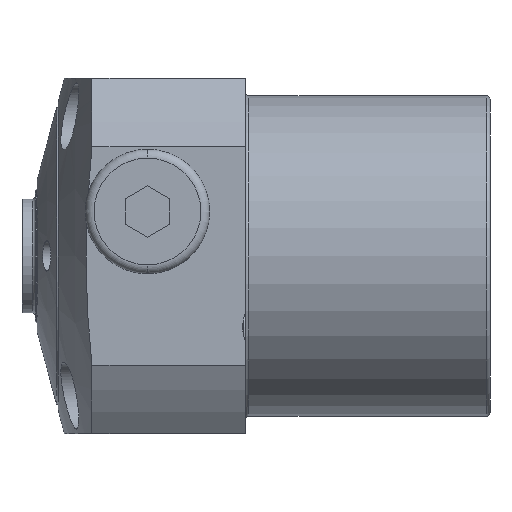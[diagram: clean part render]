
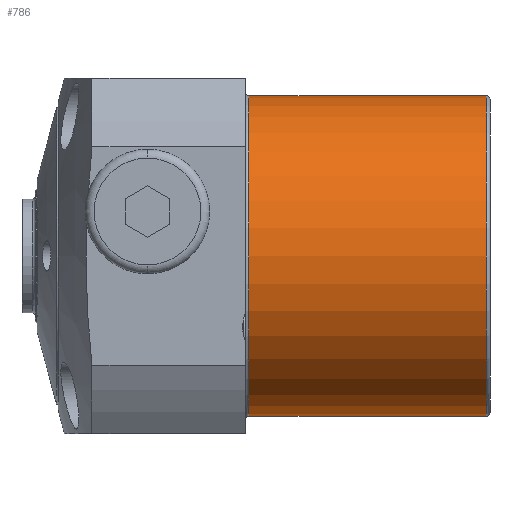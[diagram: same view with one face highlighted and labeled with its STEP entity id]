
A CAD part, left-side view. The second image highlights one B-rep face of the part: STEP entity #786.
In plain terms, the highlighted cylindrical face has radius 18 mm (diameter 36 mm), a partial arc.
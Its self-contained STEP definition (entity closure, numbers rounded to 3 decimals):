
#374=CYLINDRICAL_SURFACE('',#3055,18.);
#484=LINE('',#4728,#623);
#485=LINE('',#4732,#624);
#623=VECTOR('',#3643,1.);
#624=VECTOR('',#3646,1.);
#786=ADVANCED_FACE('',(#973),#374,.T.);
#973=FACE_OUTER_BOUND('',#1150,.T.);
#1150=EDGE_LOOP('',(#1736,#1737,#1738,#1739));
#1736=ORIENTED_EDGE('',*,*,#2410,.T.);
#1737=ORIENTED_EDGE('',*,*,#2405,.T.);
#1738=ORIENTED_EDGE('',*,*,#2412,.F.);
#1739=ORIENTED_EDGE('',*,*,#2517,.F.);
#2116=VERTEX_POINT('',#4719);
#2117=VERTEX_POINT('',#4720);
#2120=VERTEX_POINT('',#4729);
#2121=VERTEX_POINT('',#4731);
#2405=EDGE_CURVE('',#2116,#2117,#2677,.T.);
#2410=EDGE_CURVE('',#2120,#2116,#484,.T.);
#2412=EDGE_CURVE('',#2121,#2117,#485,.T.);
#2517=EDGE_CURVE('',#2120,#2121,#2735,.T.);
#2677=CIRCLE('',#2965,18.);
#2735=CIRCLE('',#3053,18.);
#2965=AXIS2_PLACEMENT_3D('',#4718,#3631,#3632);
#3053=AXIS2_PLACEMENT_3D('',#5096,#3845,#3846);
#3055=AXIS2_PLACEMENT_3D('',#5098,#3849,#3850);
#3631=DIRECTION('',(0.,-1.,0.));
#3632=DIRECTION('',(0.,0.,-1.));
#3643=DIRECTION('',(0.,1.,0.));
#3646=DIRECTION('',(0.,1.,0.));
#3845=DIRECTION('',(0.,-1.,0.));
#3846=DIRECTION('',(0.,0.,-1.));
#3849=DIRECTION('',(0.,-1.,0.));
#3850=DIRECTION('',(0.,0.,1.));
#4718=CARTESIAN_POINT('',(0.,32.668,0.));
#4719=CARTESIAN_POINT('',(0.,32.668,18.));
#4720=CARTESIAN_POINT('',(0.,32.668,-18.));
#4728=CARTESIAN_POINT('',(0.,0.,18.));
#4729=CARTESIAN_POINT('',(0.,5.968,18.));
#4731=CARTESIAN_POINT('',(0.,5.968,-18.));
#4732=CARTESIAN_POINT('',(0.,0.,-18.));
#5096=CARTESIAN_POINT('',(0.,5.968,0.));
#5098=CARTESIAN_POINT('',(0.,0.,0.));
